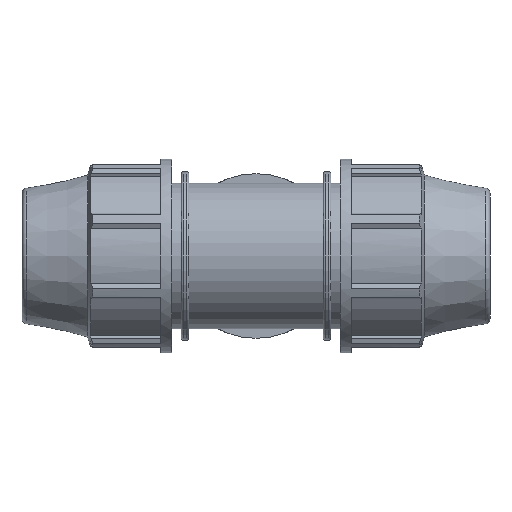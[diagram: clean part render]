
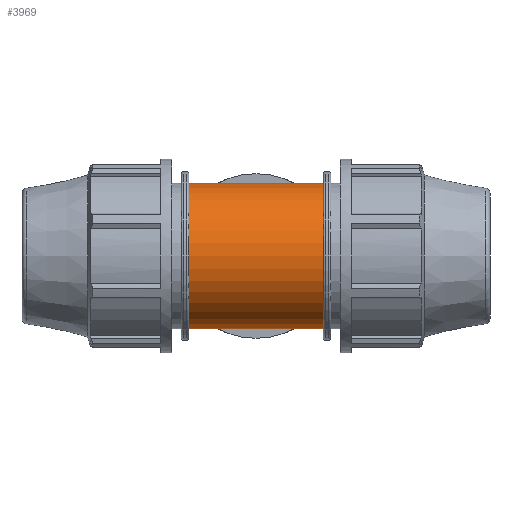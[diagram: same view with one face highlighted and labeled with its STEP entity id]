
A CAD part, front view. The second image highlights one B-rep face of the part: STEP entity #3969.
In plain terms, the highlighted cylindrical face has radius 42.386 mm (diameter 84.772 mm), a full revolution.
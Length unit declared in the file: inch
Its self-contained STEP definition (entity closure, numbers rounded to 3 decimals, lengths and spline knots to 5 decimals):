
#221=FACE_BOUND('',#441,.T.);
#239=FACE_OUTER_BOUND('',#440,.T.);
#440=EDGE_LOOP('',(#2539,#2540,#2541,#2542,#2543,#2544));
#441=EDGE_LOOP('',(#2545,#2546));
#658=B_SPLINE_CURVE_WITH_KNOTS('',3,(#5809,#5810,#5811,#5812,#5813,#5814,
#5815,#5816,#5817,#5818,#5819,#5820,#5821,#5822,#5823,#5824,#5825,#5826),
 .UNSPECIFIED.,.F.,.F.,(4,2,2,2,2,2,2,2,4),(0.,0.75646,1.51291,
2.26937,3.02583,3.74718,4.46854,5.1899,
5.91126),.UNSPECIFIED.);
#659=B_SPLINE_CURVE_WITH_KNOTS('',3,(#5827,#5828,#5829,#5830,#5831,#5832,
#5833,#5834,#5835,#5836,#5837,#5838,#5839,#5840,#5841,#5842,#5843,#5844,
#5845,#5846,#5847,#5848,#5849,#5850,#5851,#5852,#5853,#5854,#5855,#5856,
#5857,#5858,#5859,#5860,#5861,#5862,#5863,#5864,#5865,#5866,#5867,#5868,
#5869,#5870,#5871,#5872,#5873,#5874,#5875,#5876),.UNSPECIFIED.,.F.,.F.,
(4,2,2,2,2,2,2,2,2,2,2,2,2,2,2,2,2,2,2,2,2,2,2,2,4),(5.91126,6.63262,
7.35398,8.07534,8.79669,9.55315,10.30961,
11.06606,11.82252,12.57898,13.33543,14.09189,
14.84835,15.5697,16.29106,17.01242,17.73378,
18.45514,19.1765,19.89786,20.61921,21.37567,
22.13213,22.88858,23.64504),.UNSPECIFIED.);
#669=LINE('',#5803,#990);
#990=VECTOR('',#4625,1.66875);
#1314=CIRCLE('',#4195,1.66875);
#1315=CIRCLE('',#4196,1.66875);
#1316=CIRCLE('',#4197,1.66875);
#1317=CIRCLE('',#4198,1.66875);
#1531=VERTEX_POINT('',#5798);
#1532=VERTEX_POINT('',#5799);
#1533=VERTEX_POINT('',#5802);
#1534=VERTEX_POINT('',#5804);
#1535=VERTEX_POINT('',#5807);
#1536=VERTEX_POINT('',#5808);
#1942=EDGE_CURVE('',#1531,#1532,#1314,.T.);
#1943=EDGE_CURVE('',#1532,#1531,#1315,.T.);
#1944=EDGE_CURVE('',#1532,#1533,#669,.T.);
#1945=EDGE_CURVE('',#1533,#1534,#1316,.T.);
#1946=EDGE_CURVE('',#1534,#1533,#1317,.T.);
#1947=EDGE_CURVE('',#1535,#1536,#658,.T.);
#1948=EDGE_CURVE('',#1536,#1535,#659,.T.);
#2539=ORIENTED_EDGE('',*,*,#1942,.F.);
#2540=ORIENTED_EDGE('',*,*,#1943,.F.);
#2541=ORIENTED_EDGE('',*,*,#1944,.T.);
#2542=ORIENTED_EDGE('',*,*,#1945,.T.);
#2543=ORIENTED_EDGE('',*,*,#1946,.T.);
#2544=ORIENTED_EDGE('',*,*,#1944,.F.);
#2545=ORIENTED_EDGE('',*,*,#1947,.F.);
#2546=ORIENTED_EDGE('',*,*,#1948,.F.);
#3725=CYLINDRICAL_SURFACE('',#4194,1.66875);
#3969=ADVANCED_FACE('',(#239,#221),#3725,.T.);
#4194=AXIS2_PLACEMENT_3D('',#5797,#4619,#4620);
#4195=AXIS2_PLACEMENT_3D('',#5800,#4621,#4622);
#4196=AXIS2_PLACEMENT_3D('',#5801,#4623,#4624);
#4197=AXIS2_PLACEMENT_3D('',#5805,#4626,#4627);
#4198=AXIS2_PLACEMENT_3D('',#5806,#4628,#4629);
#4619=DIRECTION('center_axis',(1.,0.,0.));
#4620=DIRECTION('ref_axis',(0.,1.,0.));
#4621=DIRECTION('center_axis',(1.,0.,0.));
#4622=DIRECTION('ref_axis',(0.,0.,-1.));
#4623=DIRECTION('center_axis',(1.,0.,0.));
#4624=DIRECTION('ref_axis',(0.,0.,-1.));
#4625=DIRECTION('',(-1.,0.,0.));
#4626=DIRECTION('center_axis',(1.,0.,0.));
#4627=DIRECTION('ref_axis',(0.,0.,-1.));
#4628=DIRECTION('center_axis',(1.,0.,0.));
#4629=DIRECTION('ref_axis',(0.,0.,-1.));
#5797=CARTESIAN_POINT('Origin',(1.09292,0.,0.));
#5798=CARTESIAN_POINT('',(1.54083,1.66875,0.));
#5799=CARTESIAN_POINT('',(1.54083,-1.66875,0.));
#5800=CARTESIAN_POINT('Origin',(1.54083,0.,0.));
#5801=CARTESIAN_POINT('Origin',(1.54083,0.,0.));
#5802=CARTESIAN_POINT('',(-1.54083,-1.66875,0.));
#5803=CARTESIAN_POINT('',(1.09292,-1.66875,0.));
#5804=CARTESIAN_POINT('',(-1.54083,1.66875,0.));
#5805=CARTESIAN_POINT('Origin',(-1.54083,0.,0.));
#5806=CARTESIAN_POINT('Origin',(-1.54083,0.,0.));
#5807=CARTESIAN_POINT('',(0.,0.88058,1.4175));
#5808=CARTESIAN_POINT('',(1.4175,1.66875,0.));
#5809=CARTESIAN_POINT('Ctrl Pts',(0.,0.88058,
1.4175));
#5810=CARTESIAN_POINT('Ctrl Pts',(0.09927,0.88058,1.4175));
#5811=CARTESIAN_POINT('Ctrl Pts',(0.19578,0.89776,1.40711));
#5812=CARTESIAN_POINT('Ctrl Pts',(0.38144,0.95558,1.3685));
#5813=CARTESIAN_POINT('Ctrl Pts',(0.47068,0.99589,1.34026));
#5814=CARTESIAN_POINT('Ctrl Pts',(0.64053,1.08653,1.26789));
#5815=CARTESIAN_POINT('Ctrl Pts',(0.72116,1.13684,1.2237));
#5816=CARTESIAN_POINT('Ctrl Pts',(0.87107,1.23738,1.12194));
#5817=CARTESIAN_POINT('Ctrl Pts',(0.94033,1.28762,1.06432));
#5818=CARTESIAN_POINT('Ctrl Pts',(1.06144,1.37861,0.94321));
#5819=CARTESIAN_POINT('Ctrl Pts',(1.11825,1.42301,0.87578));
#5820=CARTESIAN_POINT('Ctrl Pts',(1.22047,1.50467,0.72659));
#5821=CARTESIAN_POINT('Ctrl Pts',(1.26587,1.54189,0.64481));
#5822=CARTESIAN_POINT('Ctrl Pts',(1.34021,1.60348,0.47122));
#5823=CARTESIAN_POINT('Ctrl Pts',(1.36921,1.6279,0.3792));
#5824=CARTESIAN_POINT('Ctrl Pts',(1.40787,1.66054,0.19093));
#5825=CARTESIAN_POINT('Ctrl Pts',(1.4175,1.66875,0.09467));
#5826=CARTESIAN_POINT('Ctrl Pts',(1.4175,1.66875,0.));
#5827=CARTESIAN_POINT('Ctrl Pts',(1.4175,1.66875,0.));
#5828=CARTESIAN_POINT('Ctrl Pts',(1.4175,1.66875,-0.09467));
#5829=CARTESIAN_POINT('Ctrl Pts',(1.40787,1.66054,-0.19093));
#5830=CARTESIAN_POINT('Ctrl Pts',(1.36921,1.6279,-0.3792));
#5831=CARTESIAN_POINT('Ctrl Pts',(1.34021,1.60348,-0.47122));
#5832=CARTESIAN_POINT('Ctrl Pts',(1.26587,1.54189,-0.64481));
#5833=CARTESIAN_POINT('Ctrl Pts',(1.22047,1.50467,-0.72659));
#5834=CARTESIAN_POINT('Ctrl Pts',(1.11825,1.42301,-0.87578));
#5835=CARTESIAN_POINT('Ctrl Pts',(1.06144,1.37861,-0.94321));
#5836=CARTESIAN_POINT('Ctrl Pts',(0.94033,1.28762,-1.06432));
#5837=CARTESIAN_POINT('Ctrl Pts',(0.87107,1.23738,-1.12194));
#5838=CARTESIAN_POINT('Ctrl Pts',(0.72116,1.13684,-1.2237));
#5839=CARTESIAN_POINT('Ctrl Pts',(0.64053,1.08653,-1.26789));
#5840=CARTESIAN_POINT('Ctrl Pts',(0.47068,0.99589,-1.34026));
#5841=CARTESIAN_POINT('Ctrl Pts',(0.38144,0.95558,-1.3685));
#5842=CARTESIAN_POINT('Ctrl Pts',(0.19578,0.89776,-1.40711));
#5843=CARTESIAN_POINT('Ctrl Pts',(0.09927,0.88058,-1.4175));
#5844=CARTESIAN_POINT('Ctrl Pts',(-0.09927,0.88058,
-1.4175));
#5845=CARTESIAN_POINT('Ctrl Pts',(-0.19578,0.89776,
-1.40711));
#5846=CARTESIAN_POINT('Ctrl Pts',(-0.38144,0.95558,
-1.3685));
#5847=CARTESIAN_POINT('Ctrl Pts',(-0.47068,0.99589,
-1.34026));
#5848=CARTESIAN_POINT('Ctrl Pts',(-0.64053,1.08653,-1.26789));
#5849=CARTESIAN_POINT('Ctrl Pts',(-0.72116,1.13684,-1.2237));
#5850=CARTESIAN_POINT('Ctrl Pts',(-0.87107,1.23738,-1.12194));
#5851=CARTESIAN_POINT('Ctrl Pts',(-0.94033,1.28762,-1.06432));
#5852=CARTESIAN_POINT('Ctrl Pts',(-1.06144,1.37861,-0.94321));
#5853=CARTESIAN_POINT('Ctrl Pts',(-1.11825,1.42301,-0.87578));
#5854=CARTESIAN_POINT('Ctrl Pts',(-1.22047,1.50467,-0.72659));
#5855=CARTESIAN_POINT('Ctrl Pts',(-1.26587,1.54189,-0.64481));
#5856=CARTESIAN_POINT('Ctrl Pts',(-1.34021,1.60348,-0.47122));
#5857=CARTESIAN_POINT('Ctrl Pts',(-1.36921,1.6279,-0.3792));
#5858=CARTESIAN_POINT('Ctrl Pts',(-1.40787,1.66054,-0.19093));
#5859=CARTESIAN_POINT('Ctrl Pts',(-1.4175,1.66875,-0.09467));
#5860=CARTESIAN_POINT('Ctrl Pts',(-1.4175,1.66875,0.09467));
#5861=CARTESIAN_POINT('Ctrl Pts',(-1.40787,1.66054,0.19093));
#5862=CARTESIAN_POINT('Ctrl Pts',(-1.36921,1.6279,0.3792));
#5863=CARTESIAN_POINT('Ctrl Pts',(-1.34021,1.60348,0.47122));
#5864=CARTESIAN_POINT('Ctrl Pts',(-1.26587,1.54189,0.64481));
#5865=CARTESIAN_POINT('Ctrl Pts',(-1.22047,1.50467,0.72659));
#5866=CARTESIAN_POINT('Ctrl Pts',(-1.11825,1.42301,0.87578));
#5867=CARTESIAN_POINT('Ctrl Pts',(-1.06144,1.37861,0.94321));
#5868=CARTESIAN_POINT('Ctrl Pts',(-0.94033,1.28762,1.06432));
#5869=CARTESIAN_POINT('Ctrl Pts',(-0.87107,1.23738,1.12194));
#5870=CARTESIAN_POINT('Ctrl Pts',(-0.72116,1.13684,1.2237));
#5871=CARTESIAN_POINT('Ctrl Pts',(-0.64053,1.08653,1.26789));
#5872=CARTESIAN_POINT('Ctrl Pts',(-0.47068,0.99589,
1.34026));
#5873=CARTESIAN_POINT('Ctrl Pts',(-0.38144,0.95558,
1.3685));
#5874=CARTESIAN_POINT('Ctrl Pts',(-0.19578,0.89776,
1.40711));
#5875=CARTESIAN_POINT('Ctrl Pts',(-0.09927,0.88058,
1.4175));
#5876=CARTESIAN_POINT('Ctrl Pts',(0.,0.88058,
1.4175));
